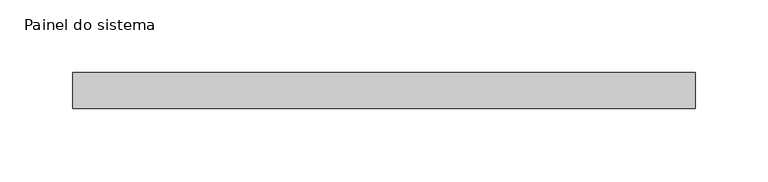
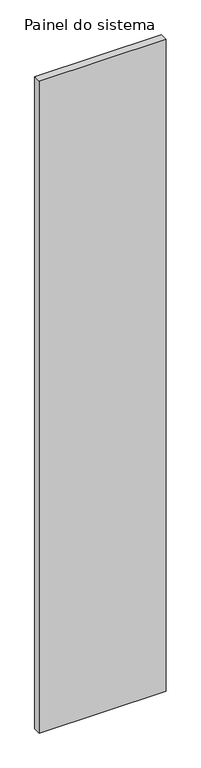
"""IFC4 building model written with IfcOpenShell, lengths in millimetres: plate geometry, Painel do sistema : Envidraçado."""

from ifc_helpers import new_model, si_unit, origin, origin_with_axes, place, context, project, spatial, polyline, outline, extrude, source, transform, mapped, element, save


def painel_do_sistema_598c63d6(model_context):
    return source(origin(), model_context, "Body", "SweptSolid", [
        extrude(outline(polyline([(214.3692455, 24.5), (-214.3692455, 24.5), (-214.3692455, 49.5), (214.3692455, 49.5), (214.3692455, 24.5)])), origin_with_axes(), (0.0, 0.0, 1.0), 2325.0),
    ])


if __name__ == "__main__":
    model = new_model("IFC4")
    model_context = context("Model", 3, world=origin())
    ifc_project = project(units=[si_unit("LENGTHUNIT", "METRE", prefix="MILLI")], contexts=[model_context])
    site = spatial("IfcSite", under=ifc_project)
    building = spatial("IfcBuilding", under=site)
    placement = place(None, origin())
    painel_do_sistema_shape = painel_do_sistema_598c63d6(model_context)
    element("IfcPlate", 1, ObjectType="Painel do sistema : Envidraçado", at=placement, inside=building, context=model_context, shape_type="MappedRepresentation", body=[
        mapped(painel_do_sistema_shape, transform((0.0, 0.0, 0.0), x_axis=(1.0, 0.0, 0.0), y_axis=(0.0, 1.0, 0.0), z_axis=(0.0, 0.0, 1.0))),
    ])
    save(model, "model.ifc")
